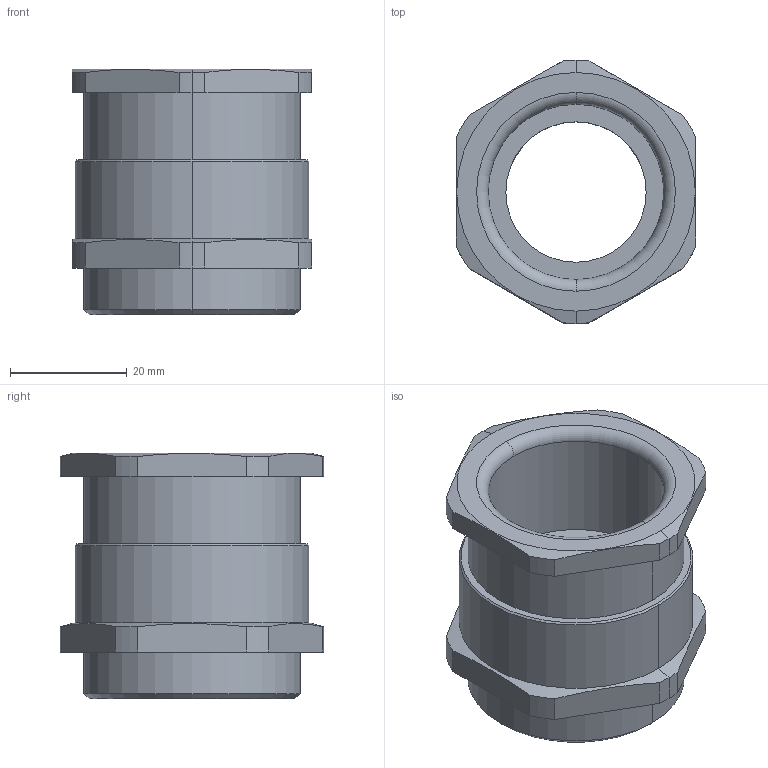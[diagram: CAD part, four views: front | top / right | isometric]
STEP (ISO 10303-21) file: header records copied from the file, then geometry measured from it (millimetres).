
FILE_DESCRIPTION (( 'STEP AP203' ), '1' );
FILE_NAME ('27.629.STEP', '2006-10-23T08:37:45', ( ' ' ), ( '' ), 'SwSTEP 2.0', 'SolidWorks 2005278', '' );
FILE_SCHEMA (( 'CONFIG_CONTROL_DESIGN' ));
Length unit declared in the file: millimetre
Products named in the file (1): 27.629
Bounding box: 41 x 45 x 42 mm (x, y, z)
Volume: 25674.2 mm3; surface area: 11266.1 mm2
Topology: 1 solids, 1 shells, 94 faces, 242 edges, 158 vertices
Faces by surface type: plane 56, cylinder 26, cone 10, torus 2
Entity records: 3011 total; most frequent: CARTESIAN_POINT 595, DIRECTION 488, ORIENTED_EDGE 484, EDGE_CURVE 242, AXIS2_PLACEMENT_3D 163, VECTOR 162, LINE 162, VERTEX_POINT 158
